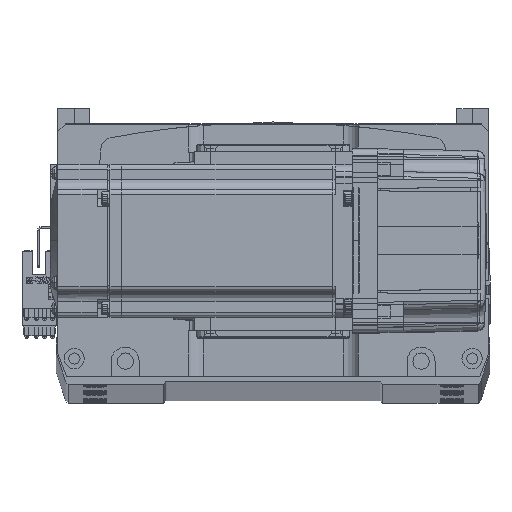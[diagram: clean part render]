
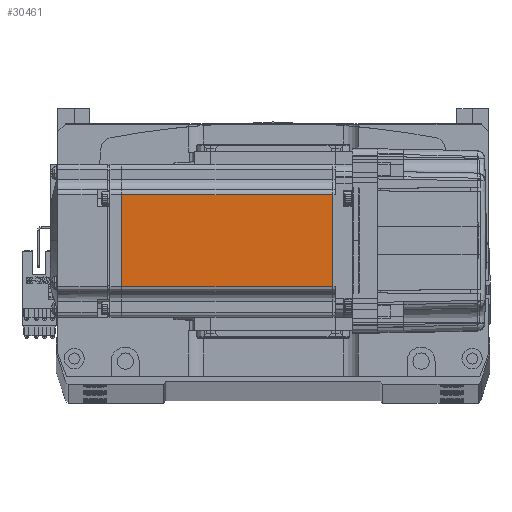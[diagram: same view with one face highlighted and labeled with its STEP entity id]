
A CAD part, top view. The second image highlights one B-rep face of the part: STEP entity #30461.
In plain terms, the highlighted planar face has unit normal (0, 0, 1).
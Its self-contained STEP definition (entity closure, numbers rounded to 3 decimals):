
#283 = LINE ( 'NONE', #1374, #69629 ) ;
#660 = LINE ( 'NONE', #41824, #49944 ) ;
#1374 = CARTESIAN_POINT ( 'NONE',  ( -7.75, 0., 30. ) ) ;
#1447 = CARTESIAN_POINT ( 'NONE',  ( -7.75, -18., 30. ) ) ;
#1635 = VECTOR ( 'NONE', #7197, 1000. ) ;
#5066 = CARTESIAN_POINT ( 'NONE',  ( -90.45, -18., 30. ) ) ;
#6867 = CARTESIAN_POINT ( 'NONE',  ( -90.45, 18., 30. ) ) ;
#7197 = DIRECTION ( 'NONE',  ( -1., 0., 0. ) ) ;
#7238 = ORIENTED_EDGE ( 'NONE', *, *, #74288, .T. ) ;
#12601 = EDGE_LOOP ( 'NONE', ( #47878, #7238, #74142, #17327 ) ) ;
#17327 = ORIENTED_EDGE ( 'NONE', *, *, #21939, .F. ) ;
#18896 = VECTOR ( 'NONE', #56968, 1000. ) ;
#20033 = FACE_OUTER_BOUND ( 'NONE', #12601, .T. ) ;
#21939 = EDGE_CURVE ( 'NONE', #58067, #72190, #38053, .T. ) ;
#22123 = CARTESIAN_POINT ( 'NONE',  ( -6.5, -18., 30. ) ) ;
#27259 = VERTEX_POINT ( 'NONE', #6867 ) ;
#27621 = DIRECTION ( 'NONE',  ( 1., 0., 0. ) ) ;
#30461 = ADVANCED_FACE ( 'NONE', ( #20033 ), #62947, .T. ) ;
#31306 = VERTEX_POINT ( 'NONE', #54165 ) ;
#31321 = DIRECTION ( 'NONE',  ( 0., -1., 0. ) ) ;
#33222 = CARTESIAN_POINT ( 'NONE',  ( -6.5, -25., 30. ) ) ;
#33989 = DIRECTION ( 'NONE',  ( 0., 0., 1. ) ) ;
#35512 = LINE ( 'NONE', #53324, #1635 ) ;
#38053 = LINE ( 'NONE', #22123, #18896 ) ;
#41824 = CARTESIAN_POINT ( 'NONE',  ( -90.45, 0., 30. ) ) ;
#47878 = ORIENTED_EDGE ( 'NONE', *, *, #50478, .F. ) ;
#48406 = EDGE_CURVE ( 'NONE', #27259, #72190, #660, .T. ) ;
#49944 = VECTOR ( 'NONE', #31321, 1000. ) ;
#50478 = EDGE_CURVE ( 'NONE', #31306, #58067, #283, .T. ) ;
#53324 = CARTESIAN_POINT ( 'NONE',  ( -6.5, 18., 30. ) ) ;
#54165 = CARTESIAN_POINT ( 'NONE',  ( -7.75, 18., 30. ) ) ;
#56968 = DIRECTION ( 'NONE',  ( -1., 0., 0. ) ) ;
#58067 = VERTEX_POINT ( 'NONE', #1447 ) ;
#62638 = AXIS2_PLACEMENT_3D ( 'NONE', #33222, #33989, #27621 ) ;
#62947 = PLANE ( 'NONE',  #62638 ) ;
#65824 = DIRECTION ( 'NONE',  ( 0., -1., 0. ) ) ;
#69629 = VECTOR ( 'NONE', #65824, 1000. ) ;
#72190 = VERTEX_POINT ( 'NONE', #5066 ) ;
#74142 = ORIENTED_EDGE ( 'NONE', *, *, #48406, .T. ) ;
#74288 = EDGE_CURVE ( 'NONE', #31306, #27259, #35512, .T. ) ;
